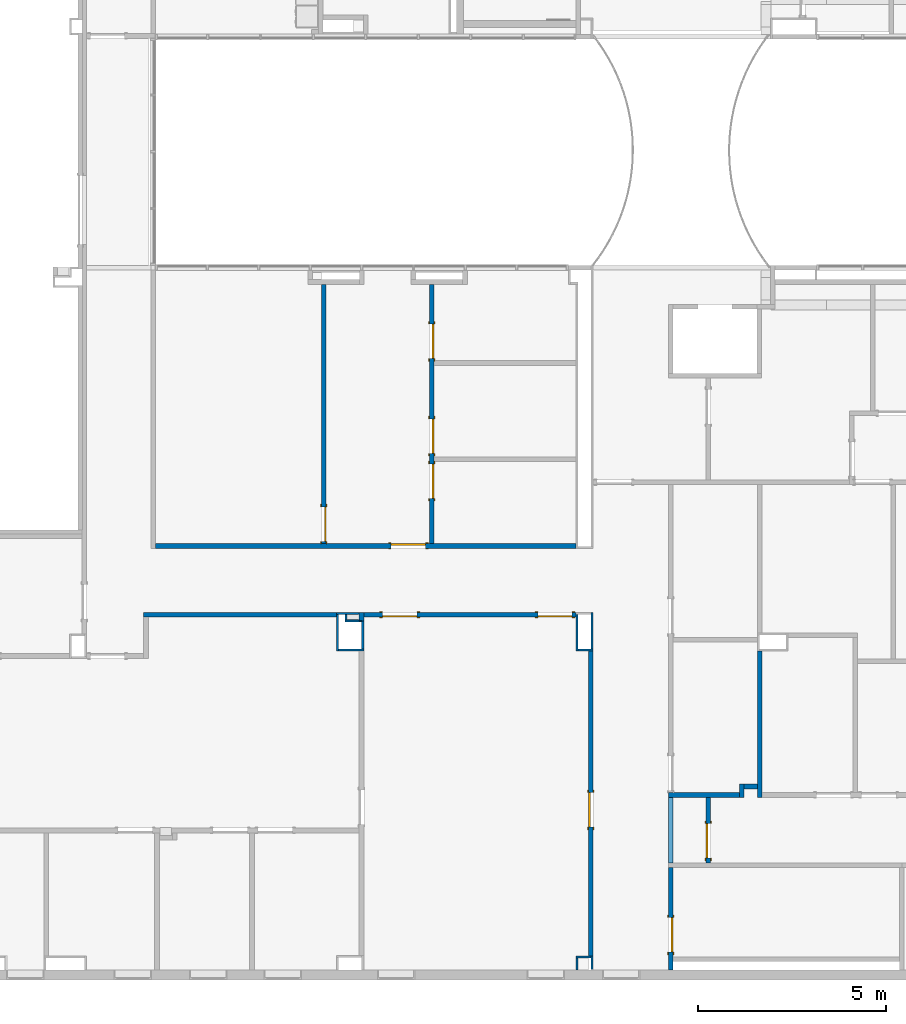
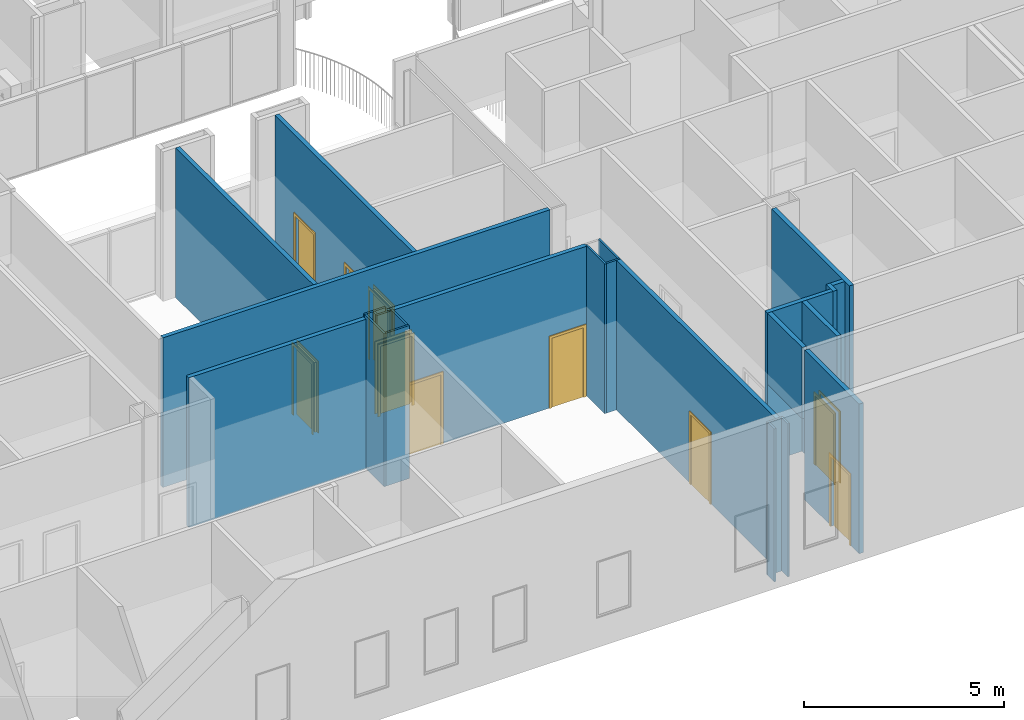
# One storey, part 9 of 45: 26 walls, 10 doors, 10 openings.
"""IFC2X3 building model written with IfcOpenShell, lengths in metres."""

import ifcopenshell
import ifcopenshell.guid

model = None  # the IFC model being written
_history = None  # IfcOwnerHistory: only IFC2X3 demands one
_inside = {}  # id of a spatial element -> (the spatial element, [elements in it])
_under = {}  # id of a project, library or spatial element -> (it, [spatial elements below it])
_declared = {}  # id of a project -> (the project, [libraries it declares])
_typed = {}  # id of a type object -> (the type object, [elements of that type])
_made_of = {}  # id of a material, layer set ... -> (it, [elements and type objects made of it])


def new_model(schema):
    """Start an empty IFC model of exactly this schema.

    Asked for "IFC4X3", IfcOpenShell would pick the latest addendum, in which some entities
    have other attributes; the version numbers below select the first issue.
    IFC2X3 requires an IfcOwnerHistory on every rooted entity: one is made here for all.
    """
    global model, _history
    if schema == "IFC4X3":
        model = ifcopenshell.file(schema_version=(4, 3, 0, 0))
    else:
        model = ifcopenshell.file(schema=schema)
    _inside.clear()
    _under.clear()
    _declared.clear()
    _typed.clear()
    _made_of.clear()
    _history = None
    if model.schema == "IFC2X3":
        org = make("IfcOrganization", Name="unknown")
        user = make(
            "IfcPersonAndOrganization",
            ThePerson=make("IfcPerson", FamilyName="unknown"),
            TheOrganization=org,
        )
        app = make(
            "IfcApplication",
            ApplicationDeveloper=org,
            Version="unknown",
            ApplicationFullName="unknown",
            ApplicationIdentifier="unknown",
        )
        _history = make(
            "IfcOwnerHistory",
            OwningUser=user,
            OwningApplication=app,
            ChangeAction="ADDED",
            CreationDate=0,
        )
    return model


def make(cls, **values):
    """One entity of the class cls with the attributes given. An attribute that is None is left unset."""
    return model.create_entity(
        cls, **{name: value for name, value in values.items() if value is not None}
    )


def entity(cls, *values):
    """Any entity or typed value of the class cls, its attributes in the order of the schema. None: left unset."""
    e = model.create_entity(cls)
    for i, value in enumerate(values):
        if value is not None:
            e[i] = value
    return e


def rooted(cls, **values):
    """An entity with a GlobalId (a new one), such as an element, a storey or a relation."""
    return make(cls, GlobalId=ifcopenshell.guid.new(), OwnerHistory=_history, **values)


def si_unit(unit_type, name, prefix=None):
    """IfcSIUnit, for example si_unit("LENGTHUNIT", "METRE", prefix="MILLI")."""
    return make("IfcSIUnit", UnitType=unit_type, Prefix=prefix, Name=name)


def converted_unit(unit_type, name, factor, base, dimensions=None, offset=None):
    """IfcConversionBasedUnit, such as the inch: factor (a typed value) times the base unit."""
    return make(
        "IfcConversionBasedUnit"
        if offset is None
        else "IfcConversionBasedUnitWithOffset",
        ConversionOffset=offset,
        Dimensions=None
        if dimensions is None
        else entity("IfcDimensionalExponents", *dimensions),
        UnitType=unit_type,
        Name=name,
        ConversionFactor=make(
            "IfcMeasureWithUnit", ValueComponent=factor, UnitComponent=base
        ),
    )


def assignment(units):
    """IfcUnitAssignment: the units of a project."""
    return None if units is None else make("IfcUnitAssignment", Units=units)


def point(xyz):
    """IfcCartesianPoint."""
    return None if xyz is None else make("IfcCartesianPoint", Coordinates=xyz)


def direction(xyz):
    """IfcDirection."""
    return None if xyz is None else make("IfcDirection", DirectionRatios=xyz)


def frame(location, z_axis=None, x_axis=None):
    """IfcAxis2Placement3D, a coordinate frame: its origin and axes. An axis left out is left unset."""
    return make(
        "IfcAxis2Placement3D",
        Location=point(location),
        Axis=direction(z_axis),
        RefDirection=direction(x_axis),
    )


def frame_2d(location, x_axis=None):
    """IfcAxis2Placement2D, a coordinate frame in the plane: its origin and x axis."""
    return make(
        "IfcAxis2Placement2D", Location=point(location), RefDirection=direction(x_axis)
    )


def origin():
    """The frame at (0, 0, 0) with its axes left unset."""
    return frame((0.0, 0.0, 0.0))


def origin_2d_with_axis():
    """The frame at (0, 0) in the plane with the x axis (1, 0) written out."""
    return frame_2d((0.0, 0.0), x_axis=(1.0, 0.0))


def place(relative_to, where):
    """IfcLocalPlacement: puts the frame where relative to a parent placement (None: the world)."""
    return make(
        "IfcLocalPlacement", PlacementRelTo=relative_to, RelativePlacement=where
    )


def context(
    kind, dimensions, precision=None, world=None, true_north=None, identifier=None
):
    """IfcGeometricRepresentationContext, for example the 3D "Model" context."""
    return make(
        "IfcGeometricRepresentationContext",
        ContextIdentifier=identifier,
        ContextType=kind,
        CoordinateSpaceDimension=dimensions,
        Precision=precision,
        WorldCoordinateSystem=world,
        TrueNorth=true_north,
    )


def project(units=None, contexts=None):
    """IfcProject with its units and contexts."""
    return rooted(
        "IfcProject",
        Name="project",
        RepresentationContexts=contexts,
        UnitsInContext=assignment(units),
    )


def spatial(cls, under=None, at=None, **own):
    """A site, building, storey or space (cls), placed at a placement, below another one or the project."""
    s = rooted(cls, ObjectPlacement=at, **own)
    if under is not None:
        _under.setdefault(under.id(), (under, []))[1].append(s)
    return s


def polyline(points):
    """IfcPolyline through the points."""
    return make("IfcPolyline", Points=[point(p) for p in points])


def profile(cls, at=None, kind="AREA", **sizes):
    """A parametric profile (cls). Its sizes go by their IFC names, for example OverallWidth=200.0."""
    return make(cls, ProfileType=kind, Position=at, **sizes)


def rectangle(**sizes):
    """IfcRectangleProfileDef."""
    return profile("IfcRectangleProfileDef", **sizes)


def outline(outer, holes=None, kind="AREA"):
    """IfcArbitraryClosedProfileDef: a profile drawn as a closed curve; with holes, ...WithVoids."""
    if holes is None:
        return make("IfcArbitraryClosedProfileDef", ProfileType=kind, OuterCurve=outer)
    return make(
        "IfcArbitraryProfileDefWithVoids",
        ProfileType=kind,
        OuterCurve=outer,
        InnerCurves=holes,
    )


def extrude(swept, where, along, depth):
    """IfcExtrudedAreaSolid: the profile swept, set in the frame where, extruded along a direction by depth."""
    return make(
        "IfcExtrudedAreaSolid",
        SweptArea=swept,
        Position=where,
        ExtrudedDirection=direction(along),
        Depth=depth,
    )


def shape(context_of_items, identifier, shape_type, items):
    """IfcShapeRepresentation: the items that make up one representation, for example the "Body"."""
    return make(
        "IfcShapeRepresentation",
        ContextOfItems=context_of_items,
        RepresentationIdentifier=identifier,
        RepresentationType=shape_type,
        Items=items,
    )


def source(mapping_origin, context_of_items, identifier, shape_type, items):
    """IfcRepresentationMap: a shape defined once, which mapped items show again and again."""
    return make(
        "IfcRepresentationMap",
        MappingOrigin=mapping_origin,
        MappedRepresentation=shape(context_of_items, identifier, shape_type, items),
    )


def transform(
    local_origin,
    x_axis=None,
    y_axis=None,
    z_axis=None,
    scale=None,
    scale2=None,
    scale3=None,
    uniform=True,
):
    """IfcCartesianTransformationOperator3D, or its non-uniform kind. x_axis, y_axis, z_axis: its Axis1, 2, 3."""
    if uniform:
        return make(
            "IfcCartesianTransformationOperator3D",
            Axis1=direction(x_axis),
            Axis2=direction(y_axis),
            LocalOrigin=point(local_origin),
            Scale=scale,
            Axis3=direction(z_axis),
        )
    return make(
        "IfcCartesianTransformationOperator3DnonUniform",
        Axis1=direction(x_axis),
        Axis2=direction(y_axis),
        LocalOrigin=point(local_origin),
        Scale=scale,
        Axis3=direction(z_axis),
        Scale2=scale2,
        Scale3=scale3,
    )


def mapped(mapping_source, mapping_target):
    """IfcMappedItem: shows the shape of a source again, moved by a transform."""
    return make(
        "IfcMappedItem", MappingSource=mapping_source, MappingTarget=mapping_target
    )


def material(Name=None, Category=None):
    """IfcMaterial."""
    return make("IfcMaterial", Name=Name, Category=Category)


def layer(
    of_material, thickness, ventilated=None, Name=None, Category=None, Priority=None
):
    """IfcMaterialLayer: one layer of a wall or slab, of a material (None: an air gap)."""
    return make(
        "IfcMaterialLayer",
        Material=of_material,
        LayerThickness=thickness,
        IsVentilated=ventilated,
        Name=Name,
        Category=Category,
        Priority=Priority,
    )


def layer_set(layers, Name=None):
    """IfcMaterialLayerSet."""
    return make("IfcMaterialLayerSet", MaterialLayers=layers, LayerSetName=Name)


def layer_usage(for_layer_set, set_direction, sense, offset, extent=None):
    """IfcMaterialLayerSetUsage: how a layer set lies in its element."""
    return make(
        "IfcMaterialLayerSetUsage",
        ForLayerSet=for_layer_set,
        LayerSetDirection=set_direction,
        DirectionSense=sense,
        OffsetFromReferenceLine=offset,
        ReferenceExtent=extent,
    )


def made_of(thing, what):
    """Note that an element or type object is made of a material, layer set ...; save() writes the relation."""
    if what is not None:
        _made_of.setdefault(what.id(), (what, []))[1].append(thing)
    return thing


def type_object(cls, material=None, **own):
    """A type object (cls), such as IfcWallType, which elements share."""
    return made_of(rooted(cls, **own), material)


def type_shapes(of_type, sources):
    """Give a type object the sources (RepresentationMaps) that its elements show as mapped items."""
    of_type.RepresentationMaps = sources


def element(
    cls,
    number,
    at=None,
    inside=None,
    cuts=None,
    type_object=None,
    material=None,
    context=None,
    identifier="Body",
    shape_type=None,
    held_by="IfcProductDefinitionShape",
    body=None,
    shapes=None,
    **own,
):
    """One element of the class cls, such as IfcWall. Its Tag is "e" and its number.

    at: its placement. inside: the storey or other place that contains it. cuts: it is an
    opening in that element (IfcRelVoidsElement). A single representation is given by context,
    identifier, shape_type and body (its items); several are given by shapes. held_by: the class
    of the entity that holds the representations. save() writes the other relations.
    """
    e = rooted(cls, Tag="e%d" % number, ObjectPlacement=at, **own)
    if body is not None:
        shapes = [shape(context, identifier, shape_type, body)]
    if shapes is not None:
        e.Representation = make(held_by, Representations=shapes)
    if inside is not None:
        _inside.setdefault(inside.id(), (inside, []))[1].append(e)
    if cuts is not None:
        rooted(
            "IfcRelVoidsElement", RelatingBuildingElement=cuts, RelatedOpeningElement=e
        )
    if type_object is not None:
        _typed.setdefault(type_object.id(), (type_object, []))[1].append(e)
    return made_of(e, material)


def fill(opening, filler):
    """IfcRelFillsElement: the door or window that sits in an opening."""
    return rooted(
        "IfcRelFillsElement",
        RelatingOpeningElement=opening,
        RelatedBuildingElement=filler,
    )


def aggregate(whole, parts):
    """IfcRelAggregates: a whole, such as a stair, and the parts it consists of."""
    return rooted("IfcRelAggregates", RelatingObject=whole, RelatedObjects=parts)


def save(model, path):
    """Write the relations noted so far, then the file.

    IfcRelAggregates (storeys below a building ...), IfcRelContainedInSpatialStructure (elements
    in a storey), IfcRelDefinesByType, IfcRelAssociatesMaterial and IfcRelDeclares: one each for
    every whole, place, type object, material and project.
    """
    for whole, parts in _under.values():
        aggregate(whole, parts)
    for where, things in _inside.values():
        rooted(
            "IfcRelContainedInSpatialStructure",
            RelatedElements=things,
            RelatingStructure=where,
        )
    for kind, things in _typed.values():
        rooted("IfcRelDefinesByType", RelatedObjects=things, RelatingType=kind)
    for what, things in _made_of.values():
        rooted("IfcRelAssociatesMaterial", RelatedObjects=things, RelatingMaterial=what)
    for by, libraries in _declared.values():
        rooted("IfcRelDeclares", RelatingContext=by, RelatedDefinitions=libraries)
    model.write(path)


model = new_model("IFC2X3")

# Units and contexts
model_context = context("Model", 3, precision=1e-09, world=origin())
plan_context = context("Plan", 3, precision=1e-09, world=origin())
ifc_project = project(units=[si_unit("LENGTHUNIT", "METRE"), si_unit("AREAUNIT", "SQUARE_METRE"), si_unit("VOLUMEUNIT", "CUBIC_METRE"), converted_unit("PLANEANGLEUNIT", "DEGREE", entity("IfcRatioMeasure", 0.01745329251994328), si_unit("PLANEANGLEUNIT", "RADIAN"), dimensions=[0, 0, 0, 0, 0, 0, 0]), si_unit("TIMEUNIT", "SECOND")], contexts=[model_context, plan_context])

# Site, building, storey
site_placement = place(None, origin())
site = spatial("IfcSite", under=ifc_project, at=site_placement, Name="Default", CompositionType="ELEMENT")
building_placement = place(site_placement, origin())
building = spatial("IfcBuilding", under=site, at=building_placement, CompositionType="ELEMENT")
storey_placement = place(building_placement, frame((0.0, 0.0, 4.570000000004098)))
storey = spatial("IfcBuildingStorey", under=building, at=storey_placement, Name="Second Floor", CompositionType="ELEMENT", Elevation=4.570000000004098)

# Wall, opening, door
ifc_material_1 = material(Name="Plasterboard")
ifc_layer_1 = layer(ifc_material_1, 0.016)
ifc_material_2 = material(Name="Metal - Stud Layer")
ifc_layer_2 = layer(ifc_material_2, 0.092)
ifc_layer_3 = layer(ifc_material_1, 0.016)
ifc_layer_set_1 = layer_set([ifc_layer_1, ifc_layer_2, ifc_layer_3], Name="Basic Wall:Interior - Partition (92mm Stud)")
ifc_layer_usage_1 = layer_usage(ifc_layer_set_1, "AXIS2", "NEGATIVE", 0.062)
wall_1_placement = place(storey_placement, frame((-20.29000000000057, 21.2164387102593, 0.0), z_axis=(0.0, 0.0, 1.0), x_axis=(-1.0, 0.0, 0.0)))
wall_1 = element("IfcWallStandardCase", 1, at=wall_1_placement, inside=storey, material=ifc_layer_usage_1, Name="Basic Wall:Interior - Partition (92mm Stud)", ObjectType="Basic Wall:Interior - Partition (92mm Stud)", context=model_context, shape_type="SweptSolid", body=[
    extrude(rectangle(XDim=11.19600000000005, YDim=0.1239999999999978, at=frame_2d((5.598000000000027, 0.0), x_axis=(-1.0, 0.0))), origin(), (0.0, 0.0, 1.0), 4.577999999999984),
])
opening_1_placement = place(wall_1_placement, frame((4.920000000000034, 0.06199999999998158, 0.0)))
opening_1 = element("IfcOpeningElement", 2, at=opening_1_placement, cuts=wall_1, Name="M_Single-Flush:0915 x 2134mm:0915 x 2134mm:1", ObjectType="Opening", context=model_context, shape_type="SweptSolid", body=[
    extrude(rectangle(XDim=0.9149999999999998, YDim=2.134, at=frame_2d((1.067, 0.4575), x_axis=(0.0, 1.0))), frame((0.0, 0.0, 0.0), z_axis=(0.0, -1.0, 0.0), x_axis=(0.0, 0.0, 1.0)), (0.0, 0.0, 1.0), 0.124),
])
door_style_1 = type_object("IfcDoorStyle", Name="0915 x 2134mm", ConstructionType="NOTDEFINED", OperationType="SINGLE_SWING_RIGHT", ParameterTakesPrecedence=False, Sizeable=False)
shared_shape_1 = source(origin(), model_context, "Body", "SweptSolid", [
    extrude(outline(polyline([(-0.5335, -1.123999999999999), (0.5334999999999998, -1.123999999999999), (0.5334999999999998, 1.086), (0.4574999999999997, 1.086), (0.4574999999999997, -1.048000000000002), (-0.4574999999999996, -1.048000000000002), (-0.4574999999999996, 1.086), (-0.5335, 1.086), (-0.5335, -1.123999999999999)])), frame((0.4575000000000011, 0.1239999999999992, 1.086), z_axis=(0.0, 1.0, 0.0), x_axis=(1.0, 0.0, 0.0)), (0.0, 0.0, 1.0), 0.02499999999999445),
    extrude(outline(polyline([(-1.123999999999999, -0.5334999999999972), (1.085999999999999, -0.5334999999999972), (1.085999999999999, -0.4575000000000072), (-1.048, -0.4575000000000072), (-1.048, 0.4575000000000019), (1.085999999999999, 0.4575000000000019), (1.085999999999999, 0.5335000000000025), (-1.123999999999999, 0.5335000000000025), (-1.123999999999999, -0.5334999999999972)])), frame((0.4575000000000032, -0.02500000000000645, 1.085999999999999), z_axis=(0.0, 1.0, 0.0), x_axis=(0.0, 0.0, -1.0)), (0.0, 0.0, 1.0), 0.02500000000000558),
    extrude(rectangle(XDim=0.051, YDim=0.9149999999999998, at=origin_2d_with_axis()), frame((0.4575000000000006, 0.09849999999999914, 0.0), z_axis=(0.0, 0.0, 1.0), x_axis=(0.0, 1.0, 0.0)), (0.0, 0.0, 1.0), 2.133999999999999),
])
type_shapes(door_style_1, [shared_shape_1])
door_1_placement = place(opening_1_placement, frame((0.0, 0.0, 0.0), z_axis=(0.0, 0.0, 1.0), x_axis=(-1.0, 0.0, 0.0)))
door_1 = element("IfcDoor", 3, at=door_1_placement, inside=storey, type_object=door_style_1, Name="M_Single-Flush:0915 x 2134mm:0915 x 2134mm", ObjectType="0915 x 2134mm", OverallHeight=2.134, OverallWidth=0.9149999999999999, context=model_context, shape_type="MappedRepresentation", body=[
    mapped(shared_shape_1, transform((0.0, 0.0, 0.0), scale=1.0)),
])
fill(opening_1, door_1)

wall_2_placement = place(storey_placement, frame((-19.89200000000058, 18.41443871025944, 0.0), z_axis=(0.0, 0.0, 1.0), x_axis=(0.0, -1.0, 0.0)))
wall_2 = element("IfcWallStandardCase", 4, at=wall_2_placement, inside=storey, material=ifc_layer_usage_1, Name="Basic Wall:Interior - Partition (92mm Stud)", ObjectType="Basic Wall:Interior - Partition (92mm Stud)", context=model_context, shape_type="SweptSolid", body=[
    extrude(rectangle(XDim=8.109999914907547, YDim=0.1239999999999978, at=frame_2d((4.054999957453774, 0.0), x_axis=(-1.0, 0.0))), origin(), (0.0, 0.0, 1.0), 4.577999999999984),
])
opening_2_placement = place(wall_2_placement, frame((4.681000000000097, 0.06199999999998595, 0.0)))
opening_2 = element("IfcOpeningElement", 5, at=opening_2_placement, cuts=wall_2, Name="M_Single-Flush:0915 x 2134mm:0915 x 2134mm:1", ObjectType="Opening", context=model_context, shape_type="SweptSolid", body=[
    extrude(rectangle(XDim=0.9149999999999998, YDim=2.134, at=frame_2d((1.067, 0.4575), x_axis=(0.0, 1.0))), frame((0.0, 0.0, 0.0), z_axis=(0.0, -1.0, 0.0), x_axis=(0.0, 0.0, 1.0)), (0.0, 0.0, 1.0), 0.124),
])
door_2_placement = place(opening_2_placement, frame((0.0, 0.0, 0.0), z_axis=(0.0, 0.0, 1.0), x_axis=(-1.0, 0.0, 0.0)))
door_2 = element("IfcDoor", 6, at=door_2_placement, inside=storey, type_object=door_style_1, Name="M_Single-Flush:0915 x 2134mm:0915 x 2134mm", ObjectType="0915 x 2134mm", OverallHeight=2.134, OverallWidth=0.9149999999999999, context=model_context, shape_type="MappedRepresentation", body=[
    mapped(shared_shape_1, transform((0.0, 0.0, 0.0), scale=1.0)),
])
fill(opening_2, door_2)

# Wall, openings, doors
wall_3_placement = place(storey_placement, frame((-24.1330000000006, 21.27843871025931, 0.0), z_axis=(0.0, 0.0, 1.0), x_axis=(0.0, 1.0, 0.0)))
wall_3 = element("IfcWallStandardCase", 7, at=wall_3_placement, inside=storey, material=ifc_layer_usage_1, Name="Basic Wall:Interior - Partition (92mm Stud)", ObjectType="Basic Wall:Interior - Partition (92mm Stud)", context=model_context, shape_type="SweptSolid", body=[
    extrude(rectangle(XDim=6.906000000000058, YDim=0.1239999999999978, at=frame_2d((3.453000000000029, 0.0), x_axis=(-1.0, 0.0))), origin(), (0.0, 0.0, 1.0), 4.577999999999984),
])
opening_3_placement = place(wall_3_placement, frame((3.320999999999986, 0.0619999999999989, 0.0)))
opening_3 = element("IfcOpeningElement", 8, at=opening_3_placement, cuts=wall_3, Name="M_Single-Flush:0915 x 2134mm:0915 x 2134mm:1", ObjectType="Opening", context=model_context, shape_type="SweptSolid", body=[
    extrude(rectangle(XDim=0.9149999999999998, YDim=2.134, at=frame_2d((1.067, 0.4575), x_axis=(0.0, 1.0))), frame((0.0, 0.0, 0.0), z_axis=(0.0, -1.0, 0.0), x_axis=(0.0, 0.0, 1.0)), (0.0, 0.0, 1.0), 0.124),
])
opening_4_placement = place(wall_3_placement, frame((2.121999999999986, 0.0619999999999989, 0.0)))
opening_4 = element("IfcOpeningElement", 9, at=opening_4_placement, cuts=wall_3, Name="M_Single-Flush:0915 x 2134mm:0915 x 2134mm:1", ObjectType="Opening", context=model_context, shape_type="SweptSolid", body=[
    extrude(rectangle(XDim=0.9149999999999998, YDim=2.134, at=frame_2d((1.067, 0.4575000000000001), x_axis=(0.0, -1.0))), frame((0.0, 0.0, 0.0), z_axis=(0.0, -1.0, 0.0), x_axis=(0.0, 0.0, 1.0)), (0.0, 0.0, 1.0), 0.124),
])
opening_5_placement = place(wall_3_placement, frame((5.844999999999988, 0.06199999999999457, 0.0)))
opening_5 = element("IfcOpeningElement", 10, at=opening_5_placement, cuts=wall_3, Name="M_Single-Flush:0915 x 2134mm:0915 x 2134mm:1", ObjectType="Opening", context=model_context, shape_type="SweptSolid", body=[
    extrude(rectangle(XDim=0.9149999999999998, YDim=2.134, at=frame_2d((1.067, 0.4575), x_axis=(0.0, 1.0))), frame((0.0, 0.0, 0.0), z_axis=(0.0, -1.0, 0.0), x_axis=(0.0, 0.0, 1.0)), (0.0, 0.0, 1.0), 0.124),
])
door_3_placement = place(opening_3_placement, frame((0.0, 0.0, 0.0), z_axis=(0.0, 0.0, 1.0), x_axis=(-1.0, 0.0, 0.0)))
door_3 = element("IfcDoor", 11, at=door_3_placement, inside=storey, type_object=door_style_1, Name="M_Single-Flush:0915 x 2134mm:0915 x 2134mm", ObjectType="0915 x 2134mm", OverallHeight=2.134, OverallWidth=0.9149999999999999, context=model_context, shape_type="MappedRepresentation", body=[
    mapped(shared_shape_1, transform((0.0, 0.0, 0.0), scale=1.0)),
])
fill(opening_3, door_3)
door_4_placement = place(opening_5_placement, frame((0.0, 0.0, 0.0), z_axis=(0.0, 0.0, 1.0), x_axis=(-1.0, 0.0, 0.0)))
door_4 = element("IfcDoor", 12, at=door_4_placement, inside=storey, type_object=door_style_1, Name="M_Single-Flush:0915 x 2134mm:0915 x 2134mm", ObjectType="0915 x 2134mm", OverallHeight=2.134, OverallWidth=0.9149999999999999, context=model_context, shape_type="MappedRepresentation", body=[
    mapped(shared_shape_1, transform((0.0, 0.0, 0.0), scale=1.0)),
])
fill(opening_5, door_4)
door_style_2 = type_object("IfcDoorStyle", Name="0915 x 2134mm", ConstructionType="NOTDEFINED", OperationType="SINGLE_SWING_LEFT", ParameterTakesPrecedence=False, Sizeable=False)
shared_shape_2 = source(origin(), model_context, "Body", "SweptSolid", [
    extrude(outline(polyline([(-0.5335, -1.123999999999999), (0.5334999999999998, -1.123999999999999), (0.5334999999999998, 1.086), (0.4574999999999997, 1.086), (0.4574999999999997, -1.048000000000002), (-0.4574999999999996, -1.048000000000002), (-0.4574999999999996, 1.086), (-0.5335, 1.086), (-0.5335, -1.123999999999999)])), frame((0.4575000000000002, 0.1489999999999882, 1.086), z_axis=(0.0, -1.0, 0.0), x_axis=(-1.0, 0.0, 0.0)), (0.0, 0.0, 1.0), 0.02499999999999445),
    extrude(outline(polyline([(-1.123999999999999, -0.5334999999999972), (1.085999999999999, -0.5334999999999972), (1.085999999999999, -0.4575000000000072), (-1.048, -0.4575000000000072), (-1.048, 0.4575000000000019), (1.085999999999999, 0.4575000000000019), (1.085999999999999, 0.5335000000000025), (-1.123999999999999, 0.5335000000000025), (-1.123999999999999, -0.5334999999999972)])), frame((0.4574999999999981, 0.0, 1.085999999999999), z_axis=(0.0, -1.0, 0.0), x_axis=(0.0, 0.0, -1.0)), (0.0, 0.0, 1.0), 0.02500000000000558),
    extrude(rectangle(XDim=0.9149999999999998, YDim=0.051, at=origin_2d_with_axis()), frame((0.4575000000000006, 0.09849999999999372, 0.0)), (0.0, 0.0, 1.0), 2.133999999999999),
])
type_shapes(door_style_2, [shared_shape_2])
door_5_placement = place(opening_4_placement, frame((0.0, 0.0, 0.0), z_axis=(0.0, 0.0, 1.0), x_axis=(-1.0, 0.0, 0.0)))
door_5 = element("IfcDoor", 13, at=door_5_placement, inside=storey, type_object=door_style_2, Name="M_Single-Flush:0915 x 2134mm:0915 x 2134mm", ObjectType="0915 x 2134mm", OverallHeight=2.134, OverallWidth=0.9149999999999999, context=model_context, shape_type="MappedRepresentation", body=[
    mapped(shared_shape_2, transform((0.0, 0.0, 0.0), scale=1.0)),
])
fill(opening_4, door_5)

# Wall
wall_4_placement = place(storey_placement, frame((-15.39800000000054, 14.52443871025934, 0.0), z_axis=(0.0, 0.0, 1.0), x_axis=(0.0, 1.0, 0.0)))
element("IfcWallStandardCase", 14, at=wall_4_placement, inside=storey, material=ifc_layer_usage_1, Name="Basic Wall:Interior - Partition (92mm Stud)", ObjectType="Basic Wall:Interior - Partition (92mm Stud)", context=model_context, shape_type="SweptSolid", body=[
    extrude(rectangle(XDim=3.890000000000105, YDim=0.1240000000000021, at=frame_2d((1.945000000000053, 0.0), x_axis=(-1.0, 0.0))), origin(), (0.0, 0.0, 1.0), 4.577999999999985),
])

# Wall, opening, door
ifc_material_3 = material(Name="Type-X Plasterboard")
ifc_layer_4 = layer(ifc_material_3, 0.016)
ifc_layer_5 = layer(ifc_material_2, 0.092)
ifc_layer_6 = layer(ifc_material_3, 0.016)
ifc_layer_set_2 = layer_set([ifc_layer_4, ifc_layer_5, ifc_layer_6], Name="Basic Wall:Interior - Rated 1-HR (92mm Stud)")
ifc_layer_usage_2 = layer_usage(ifc_layer_set_2, "AXIS2", "NEGATIVE", 0.06200000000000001)
wall_5_placement = place(storey_placement, frame((-17.76800000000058, 9.926999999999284, 0.0), z_axis=(0.0, 0.0, 1.0), x_axis=(0.0, 1.0, 0.0)))
wall_5 = element("IfcWallStandardCase", 15, at=wall_5_placement, inside=storey, material=ifc_layer_usage_2, Name="Basic Wall:Interior - Rated 1-HR (92mm Stud)", ObjectType="Basic Wall:Interior - Rated 1-HR (92mm Stud)", context=model_context, shape_type="SweptSolid", body=[
    extrude(rectangle(XDim=2.728999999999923, YDim=0.1240000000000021, at=frame_2d((1.364499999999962, 0.0), x_axis=(-1.0, 0.0))), origin(), (0.0, 0.0, 1.0), 4.577999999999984),
])
opening_6_placement = place(wall_5_placement, frame((1.392438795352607, 0.06200000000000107, 0.0)))
opening_6 = element("IfcOpeningElement", 16, at=opening_6_placement, cuts=wall_5, Name="M_Single-Flush:0915 x 2134mm Rated:0915 x 2134mm Rated:1", ObjectType="Opening", context=model_context, shape_type="SweptSolid", body=[
    extrude(rectangle(XDim=0.9149999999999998, YDim=2.134, at=frame_2d((1.067, 0.4575), x_axis=(0.0, 1.0))), frame((0.0, 0.0, 0.0), z_axis=(0.0, -1.0, 0.0), x_axis=(0.0, 0.0, 1.0)), (0.0, 0.0, 1.0), 0.124),
])
door_style_3 = type_object("IfcDoorStyle", Name="0915 x 2134mm Rated", ConstructionType="NOTDEFINED", OperationType="SINGLE_SWING_RIGHT", ParameterTakesPrecedence=False, Sizeable=False)
shared_shape_3 = source(origin(), model_context, "Body", "SweptSolid", [
    extrude(outline(polyline([(-0.5335, -1.123999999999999), (0.5334999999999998, -1.123999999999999), (0.5334999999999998, 1.086), (0.4574999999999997, 1.086), (0.4574999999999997, -1.048000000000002), (-0.4574999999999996, -1.048000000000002), (-0.4574999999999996, 1.086), (-0.5335, 1.086), (-0.5335, -1.123999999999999)])), frame((0.4575000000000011, 0.1240000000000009, 1.086), z_axis=(0.0, 1.0, 0.0), x_axis=(1.0, 0.0, 0.0)), (0.0, 0.0, 1.0), 0.02499999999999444),
    extrude(outline(polyline([(-1.123999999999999, -0.5334999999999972), (1.085999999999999, -0.5334999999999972), (1.085999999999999, -0.4575000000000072), (-1.048, -0.4575000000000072), (-1.048, 0.4575000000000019), (1.085999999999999, 0.4575000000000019), (1.085999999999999, 0.5335000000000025), (-1.123999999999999, 0.5335000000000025), (-1.123999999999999, -0.5334999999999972)])), frame((0.4575000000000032, -0.02500000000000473, 1.085999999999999), z_axis=(0.0, 1.0, 0.0), x_axis=(0.0, 0.0, -1.0)), (0.0, 0.0, 1.0), 0.02500000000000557),
    extrude(rectangle(XDim=0.051, YDim=0.9149999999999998, at=origin_2d_with_axis()), frame((0.4575000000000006, 0.09850000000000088, 0.0), z_axis=(0.0, 0.0, 1.0), x_axis=(0.0, 1.0, 0.0)), (0.0, 0.0, 1.0), 2.133999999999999),
])
type_shapes(door_style_3, [shared_shape_3])
door_6_placement = place(opening_6_placement, frame((0.0, 0.0, 0.0), z_axis=(0.0, 0.0, 1.0), x_axis=(-1.0, 0.0, 0.0)))
door_6 = element("IfcDoor", 17, at=door_6_placement, inside=storey, type_object=door_style_3, Name="M_Single-Flush:0915 x 2134mm Rated:0915 x 2134mm Rated", ObjectType="0915 x 2134mm Rated", OverallHeight=2.134, OverallWidth=0.9149999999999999, context=model_context, shape_type="MappedRepresentation", body=[
    mapped(shared_shape_3, transform((0.0, 0.0, 0.0), scale=1.0)),
])
fill(opening_6, door_6)

# Wall, openings, doors
wall_6_placement = place(storey_placement, frame((-25.94000000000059, 19.38243871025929, 0.0)))
wall_6 = element("IfcWallStandardCase", 18, at=wall_6_placement, inside=storey, material=ifc_layer_usage_1, Name="Basic Wall:Interior - Partition (92mm Stud)", ObjectType="Basic Wall:Interior - Partition (92mm Stud)", context=model_context, shape_type="SweptSolid", body=[
    extrude(rectangle(XDim=5.650000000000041, YDim=0.1240000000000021, at=frame_2d((2.825000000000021, 0.0), x_axis=(-1.0, 0.0))), origin(), (0.0, 0.0, 1.0), 4.577999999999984),
])
opening_7_placement = place(wall_6_placement, frame((5.550000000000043, 0.06199999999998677, 0.0)))
opening_7 = element("IfcOpeningElement", 19, at=opening_7_placement, cuts=wall_6, Name=":1", ObjectType="Opening", context=model_context, shape_type="SweptSolid", body=[
    extrude(rectangle(XDim=0.9149999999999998, YDim=2.134, at=frame_2d((1.067, 0.4574999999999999), x_axis=(0.0, -1.0))), frame((0.0, 0.0, 0.0), z_axis=(0.0, -1.0, 0.0), x_axis=(0.0, 0.0, 1.0)), (0.0, 0.0, 1.0), 0.124),
])
opening_8_placement = place(wall_6_placement, frame((1.414999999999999, 0.06199999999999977, 0.0)))
opening_8 = element("IfcOpeningElement", 20, at=opening_8_placement, cuts=wall_6, Name=":1", ObjectType="Opening", context=model_context, shape_type="SweptSolid", body=[
    extrude(rectangle(XDim=0.9149999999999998, YDim=2.134, at=frame_2d((1.067, 0.4575), x_axis=(0.0, 1.0))), frame((0.0, 0.0, 0.0), z_axis=(0.0, -1.0, 0.0), x_axis=(0.0, 0.0, 1.0)), (0.0, 0.0, 1.0), 0.124),
])
door_7_placement = place(opening_8_placement, frame((0.0, 0.0, 0.0), z_axis=(0.0, 0.0, 1.0), x_axis=(-1.0, 0.0, 0.0)))
door_7 = element("IfcDoor", 21, at=door_7_placement, inside=storey, type_object=door_style_1, Name="M_Single-Flush:0915 x 2134mm:0915 x 2134mm", ObjectType="0915 x 2134mm", OverallHeight=2.134, OverallWidth=0.9149999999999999, context=model_context, shape_type="MappedRepresentation", body=[
    mapped(shared_shape_1, transform((0.0, 0.0, 0.0), scale=1.0)),
])
fill(opening_8, door_7)
door_8_placement = place(opening_7_placement, frame((0.0, 0.0, 0.0), z_axis=(0.0, 0.0, 1.0), x_axis=(-1.0, 0.0, 0.0)))
door_8 = element("IfcDoor", 22, at=door_8_placement, inside=storey, type_object=door_style_2, Name="M_Single-Flush:0915 x 2134mm:0915 x 2134mm", ObjectType="0915 x 2134mm", OverallHeight=2.134, OverallWidth=0.9149999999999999, context=model_context, shape_type="MappedRepresentation", body=[
    mapped(shared_shape_2, transform((0.0, 0.0, 0.0), scale=1.0)),
])
fill(opening_7, door_8)

# Walls
wall_7_placement = place(storey_placement, frame((-15.93400000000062, 14.58643871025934, 0.0), z_axis=(0.0, 0.0, 1.0), x_axis=(-1.0, 0.0, 0.0)))
element("IfcWallStandardCase", 23, at=wall_7_placement, inside=storey, material=ifc_layer_usage_1, Name="Basic Wall:Interior - Partition (92mm Stud)", ObjectType="Basic Wall:Interior - Partition (92mm Stud)", context=model_context, shape_type="SweptSolid", body=[
    extrude(rectangle(XDim=1.895999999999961, YDim=0.1240000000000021, at=frame_2d((0.9479999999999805, 0.0), x_axis=(-1.0, 0.0))), origin(), (0.0, 0.0, 1.0), 4.577999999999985),
])
wall_8_placement = place(storey_placement, frame((-31.80000000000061, 19.38243871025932, 0.0)))
element("IfcWallStandardCase", 24, at=wall_8_placement, inside=storey, material=ifc_layer_usage_1, Name="Basic Wall:Interior - Partition (92mm Stud)", ObjectType="Basic Wall:Interior - Partition (92mm Stud)", context=model_context, shape_type="SweptSolid", body=[
    extrude(rectangle(XDim=5.130000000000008, YDim=0.1240000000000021, at=frame_2d((2.565000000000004, 0.0), x_axis=(-1.0, 0.0))), origin(), (0.0, 0.0, 1.0), 4.577999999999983),
])
ifc_layer_7 = layer(ifc_material_2, 0.038)
ifc_layer_8 = layer(ifc_material_1, 0.016)
ifc_layer_set_3 = layer_set([ifc_layer_7, ifc_layer_8], Name="Basic Wall:Interior - Furring (38 mm Stud)")
ifc_layer_usage_3 = layer_usage(ifc_layer_set_3, "AXIS2", "NEGATIVE", 0.027)
wall_9_placement = place(storey_placement, frame((-26.06400000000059, 19.41743871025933, 0.0), z_axis=(0.0, 0.0, 1.0), x_axis=(-1.0, 0.0, 0.0)))
element("IfcWallStandardCase", 25, at=wall_9_placement, inside=storey, material=ifc_layer_usage_3, Name="Basic Wall:Interior - Furring (38 mm Stud)", ObjectType="Basic Wall:Interior - Furring (38 mm Stud)", context=model_context, shape_type="SweptSolid", body=[
    extrude(rectangle(XDim=0.6060000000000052, YDim=0.05400000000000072, at=frame_2d((0.3030000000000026, 0.0), x_axis=(-1.0, 0.0))), origin(), (0.0, 0.0, 1.0), 4.679999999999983),
])
wall_10_placement = place(storey_placement, frame((-26.6430000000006, 19.3904387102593, 0.0), z_axis=(0.0, 0.0, 1.0), x_axis=(0.0, -1.0, 0.0)))
element("IfcWallStandardCase", 26, at=wall_10_placement, inside=storey, material=ifc_layer_usage_3, Name="Basic Wall:Interior - Furring (38 mm Stud)", ObjectType="Basic Wall:Interior - Furring (38 mm Stud)", context=model_context, shape_type="SweptSolid", body=[
    extrude(rectangle(XDim=0.9759999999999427, YDim=0.05399999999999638, at=frame_2d((0.4879999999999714, 0.0), x_axis=(-1.0, 0.0))), origin(), (0.0, 0.0, 1.0), 4.679999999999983),
])

# Wall, opening, door
wall_11_placement = place(storey_placement, frame((-16.76800000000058, 12.7799999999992, 0.0), z_axis=(0.0, 0.0, 1.0), x_axis=(0.0, 1.0, 0.0)))
wall_11 = element("IfcWallStandardCase", 27, at=wall_11_placement, inside=storey, material=ifc_layer_usage_1, Name="Basic Wall:Interior - Partition (92mm Stud)", ObjectType="Basic Wall:Interior - Partition (92mm Stud)", context=model_context, shape_type="SweptSolid", body=[
    extrude(rectangle(XDim=1.744438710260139, YDim=0.1240000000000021, at=frame_2d((0.8722193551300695, 0.0), x_axis=(-1.0, 0.0))), origin(), (0.0, 0.0, 1.0), 4.577999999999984),
])
opening_9_placement = place(wall_11_placement, frame((0.1284387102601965, -0.06199999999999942, 0.0)))
opening_9 = element("IfcOpeningElement", 28, at=opening_9_placement, cuts=wall_11, Name="M_Single-Flush:0915 x 2134mm:0915 x 2134mm:1", ObjectType="Opening", context=model_context, shape_type="SweptSolid", body=[
    extrude(rectangle(XDim=0.9149999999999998, YDim=2.134, at=frame_2d((1.067, 0.4575000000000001), x_axis=(0.0, -1.0))), frame((0.0, 0.0, 0.0), z_axis=(0.0, 1.0, 0.0), x_axis=(0.0, 0.0, 1.0)), (0.0, 0.0, 1.0), 0.124),
])
door_9_placement = place(opening_9_placement, origin())
door_9 = element("IfcDoor", 29, at=door_9_placement, inside=storey, type_object=door_style_2, Name="M_Single-Flush:0915 x 2134mm:0915 x 2134mm", ObjectType="0915 x 2134mm", OverallHeight=2.134, OverallWidth=0.9149999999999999, context=model_context, shape_type="MappedRepresentation", body=[
    mapped(shared_shape_2, transform((0.0, 0.0, 0.0), scale=1.0)),
])
fill(opening_9, door_9)

# Walls
wall_12_placement = place(storey_placement, frame((-25.9670000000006, 18.46843871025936, 0.0), z_axis=(0.0, 0.0, 1.0), x_axis=(0.0, 1.0, 0.0)))
element("IfcWallStandardCase", 30, at=wall_12_placement, inside=storey, material=ifc_layer_usage_3, Name="Basic Wall:Interior - Furring (38 mm Stud)", ObjectType="Basic Wall:Interior - Furring (38 mm Stud)", context=model_context, shape_type="SweptSolid", body=[
    extrude(rectangle(XDim=0.781, YDim=0.05399999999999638, at=frame_2d((0.3905, 0.0), x_axis=(-1.0, 0.0))), origin(), (0.0, 0.0, 1.0), 4.679999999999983),
])
wall_13_placement = place(storey_placement, frame((-19.88400000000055, 10.2774387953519, 0.0), z_axis=(0.0, 0.0, 1.0), x_axis=(-1.0, 0.0, 0.0)))
element("IfcWallStandardCase", 31, at=wall_13_placement, inside=storey, material=ifc_layer_usage_3, Name="Basic Wall:Interior - Furring (38 mm Stud)", ObjectType="Basic Wall:Interior - Furring (38 mm Stud)", context=model_context, shape_type="SweptSolid", body=[
    extrude(rectangle(XDim=0.406000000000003, YDim=0.05400000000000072, at=frame_2d((0.2030000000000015, 0.0), x_axis=(-1.0, 0.0))), origin(), (0.0, 0.0, 1.0), 4.679999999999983),
])

# Wall, opening, door
wall_14_placement = place(storey_placement, frame((-27.0030000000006, 21.27843871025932, 0.0), z_axis=(0.0, 0.0, 1.0), x_axis=(0.0, 1.0, 0.0)))
wall_14 = element("IfcWallStandardCase", 32, at=wall_14_placement, inside=storey, material=ifc_layer_usage_1, Name="Basic Wall:Interior - Partition (92mm Stud)", ObjectType="Basic Wall:Interior - Partition (92mm Stud)", context=model_context, shape_type="SweptSolid", body=[
    extrude(rectangle(XDim=6.90600000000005, YDim=0.1239999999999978, at=frame_2d((3.453000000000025, 0.0), x_axis=(-1.0, 0.0))), origin(), (0.0, 0.0, 1.0), 4.577999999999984),
])
opening_10_placement = place(wall_14_placement, frame((0.974999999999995, 0.06200000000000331, 0.0)))
opening_10 = element("IfcOpeningElement", 33, at=opening_10_placement, cuts=wall_14, Name="M_Single-Flush:0915 x 2134mm:0915 x 2134mm:1", ObjectType="Opening", context=model_context, shape_type="SweptSolid", body=[
    extrude(rectangle(XDim=0.9149999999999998, YDim=2.134, at=frame_2d((1.067, 0.4575), x_axis=(0.0, 1.0))), frame((0.0, 0.0, 0.0), z_axis=(0.0, -1.0, 0.0), x_axis=(0.0, 0.0, 1.0)), (0.0, 0.0, 1.0), 0.124),
])
door_10_placement = place(opening_10_placement, frame((0.0, 0.0, 0.0), z_axis=(0.0, 0.0, 1.0), x_axis=(-1.0, 0.0, 0.0)))
door_10 = element("IfcDoor", 34, at=door_10_placement, inside=storey, type_object=door_style_1, Name="M_Single-Flush:0915 x 2134mm:0915 x 2134mm", ObjectType="0915 x 2134mm", OverallHeight=2.134, OverallWidth=0.9149999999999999, context=model_context, shape_type="MappedRepresentation", body=[
    mapped(shared_shape_1, transform((0.0, 0.0, 0.0), scale=1.0)),
])
fill(opening_10, door_10)

# Walls
ifc_layer_usage_4 = layer_usage(ifc_layer_set_3, "AXIS2", "POSITIVE", -0.027)
wall_15_placement = place(storey_placement, frame((-19.85700000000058, 19.4444387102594, 0.0), z_axis=(0.0, 0.0, 1.0), x_axis=(0.0, -1.0, 0.0)))
element("IfcWallStandardCase", 35, at=wall_15_placement, inside=storey, material=ifc_layer_usage_4, Name="Basic Wall:Interior - Furring (38 mm Stud)", ObjectType="Basic Wall:Interior - Furring (38 mm Stud)", context=model_context, shape_type="SweptSolid", body=[
    extrude(rectangle(XDim=0.9759999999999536, YDim=0.05399999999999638, at=frame_2d((0.4879999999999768, 0.0), x_axis=(-1.0, 0.0))), origin(), (0.0, 0.0, 1.0), 4.577999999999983),
])
ifc_layer_usage_5 = layer_usage(ifc_layer_set_1, "AXIS2", "POSITIVE", -0.062)
wall_16_placement = place(storey_placement, frame((-26.0020000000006, 19.22243871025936, 0.0), z_axis=(0.0, 0.0, 1.0), x_axis=(0.0, 1.0, 0.0)))
element("IfcWallStandardCase", 36, at=wall_16_placement, inside=storey, material=ifc_layer_usage_5, Name="Basic Wall:Interior - Partition (92mm Stud)", ObjectType="Basic Wall:Interior - Partition (92mm Stud)", context=model_context, shape_type="SweptSolid", body=[
    extrude(rectangle(XDim=0.2219999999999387, YDim=0.1239999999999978, at=frame_2d((0.1109999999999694, 0.0), x_axis=(-1.0, 0.0))), origin(), (0.0, 0.0, 1.0), 4.577999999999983),
])
wall_17_placement = place(storey_placement, frame((-19.83000000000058, 18.44143871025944, 0.0), z_axis=(0.0, 0.0, 1.0), x_axis=(-1.0, 0.0, 0.0)))
element("IfcWallStandardCase", 37, at=wall_17_placement, inside=storey, material=ifc_layer_usage_4, Name="Basic Wall:Interior - Furring (38 mm Stud)", ObjectType="Basic Wall:Interior - Furring (38 mm Stud)", context=model_context, shape_type="SweptSolid", body=[
    extrude(rectangle(XDim=0.4059999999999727, YDim=0.05400000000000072, at=frame_2d((0.2029999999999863, 0.0), x_axis=(-1.0, 0.0))), origin(), (0.0, 0.0, 1.0), 4.577999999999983),
])
wall_18_placement = place(storey_placement, frame((-17.76800000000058, 12.77999999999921, 2.399999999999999), z_axis=(0.0, 0.0, 1.0), x_axis=(0.0, 1.0, 0.0)))
element("IfcWallStandardCase", 38, at=wall_18_placement, inside=storey, material=ifc_layer_usage_1, Name="Basic Wall:Interior - Partition (92mm Stud)", ObjectType="Basic Wall:Interior - Partition (92mm Stud)", context=model_context, shape_type="SweptSolid", body=[
    extrude(rectangle(XDim=1.744438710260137, YDim=0.1240000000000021, at=frame_2d((0.8722193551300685, 0.0), x_axis=(-1.0, 0.0))), origin(), (0.0, 0.0, 1.0), 2.177999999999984),
])
wall_19_placement = place(storey_placement, frame((-20.26300000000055, 18.41443871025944, 0.0), z_axis=(0.0, 0.0, 1.0), x_axis=(0.0, 1.0, 0.0)))
element("IfcWallStandardCase", 39, at=wall_19_placement, inside=storey, material=ifc_layer_usage_4, Name="Basic Wall:Interior - Furring (38 mm Stud)", ObjectType="Basic Wall:Interior - Furring (38 mm Stud)", context=model_context, shape_type="SweptSolid", body=[
    extrude(rectangle(XDim=0.9759999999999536, YDim=0.05399999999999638, at=frame_2d((0.4879999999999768, 0.0), x_axis=(-1.0, 0.0))), origin(), (0.0, 0.0, 1.0), 4.577999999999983),
])
wall_20_placement = place(storey_placement, frame((-26.6160000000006, 18.44143871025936, 0.0)))
element("IfcWallStandardCase", 40, at=wall_20_placement, inside=storey, material=ifc_layer_usage_3, Name="Basic Wall:Interior - Furring (38 mm Stud)", ObjectType="Basic Wall:Interior - Furring (38 mm Stud)", context=model_context, shape_type="SweptSolid", body=[
    extrude(rectangle(XDim=0.6760000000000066, YDim=0.05400000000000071, at=frame_2d((0.3380000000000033, 0.0), x_axis=(-1.0, 0.0))), origin(), (0.0, 0.0, 1.0), 4.679999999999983),
])
wall_21_placement = place(storey_placement, frame((-15.46000000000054, 14.81143871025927, 0.0), z_axis=(0.0, 0.0, 1.0), x_axis=(-1.0, 0.0, 0.0)))
element("IfcWallStandardCase", 41, at=wall_21_placement, inside=storey, material=ifc_layer_usage_1, Name="Basic Wall:Interior - Partition (92mm Stud)", ObjectType="Basic Wall:Interior - Partition (92mm Stud)", context=model_context, shape_type="SweptSolid", body=[
    extrude(rectangle(XDim=0.3500000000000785, YDim=0.1240000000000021, at=frame_2d((0.1750000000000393, 0.0), x_axis=(-1.0, 0.0))), origin(), (0.0, 0.0, 1.0), 4.577999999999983),
])
wall_22_placement = place(storey_placement, frame((-19.85700000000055, 9.944438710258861, 0.0), z_axis=(0.0, 0.0, 1.0), x_axis=(0.0, 1.0, 0.0)))
element("IfcWallStandardCase", 42, at=wall_22_placement, inside=storey, material=ifc_layer_usage_3, Name="Basic Wall:Interior - Furring (38 mm Stud)", ObjectType="Basic Wall:Interior - Furring (38 mm Stud)", context=model_context, shape_type="SweptSolid", body=[
    extrude(rectangle(XDim=0.3600000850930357, YDim=0.05399999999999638, at=frame_2d((0.1800000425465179, 0.0), x_axis=(-1.0, 0.0))), origin(), (0.0, 0.0, 1.0), 4.679999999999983),
])
wall_23_placement = place(storey_placement, frame((-15.87200000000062, 14.87343871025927, 0.0), z_axis=(0.0, 0.0, 1.0), x_axis=(0.0, -1.0, 0.0)))
element("IfcWallStandardCase", 43, at=wall_23_placement, inside=storey, material=ifc_layer_usage_1, Name="Basic Wall:Interior - Partition (92mm Stud)", ObjectType="Basic Wall:Interior - Partition (92mm Stud)", context=model_context, shape_type="SweptSolid", body=[
    extrude(rectangle(XDim=0.3489999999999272, YDim=0.1240000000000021, at=frame_2d((0.1744999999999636, 0.0), x_axis=(-1.0, 0.0))), origin(), (0.0, 0.0, 1.0), 4.577999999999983),
])
wall_24_placement = place(storey_placement, frame((-25.99400000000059, 19.22243871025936, 0.0), z_axis=(0.0, 0.0, 1.0), x_axis=(-1.0, 0.0, 0.0)))
element("IfcWallStandardCase", 44, at=wall_24_placement, inside=storey, material=ifc_layer_usage_3, Name="Basic Wall:Interior - Furring (38 mm Stud)", ObjectType="Basic Wall:Interior - Furring (38 mm Stud)", context=model_context, shape_type="SweptSolid", body=[
    extrude(outline(polyline([(0.4400000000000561, -0.02700000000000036), (0.4400000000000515, 0.02700000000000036), (0.0, 0.02700000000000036), (0.0, 0.0), (0.07000000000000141, 0.0), (0.07000000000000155, -0.02700000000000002), (0.3860000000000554, -0.02700000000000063), (0.4400000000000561, -0.02700000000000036)])), origin(), (0.0, 0.0, 1.0), 4.679999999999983),
])
wall_25_placement = place(storey_placement, frame((-20.26300000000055, 10.2504387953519, 0.0), z_axis=(0.0, 0.0, 1.0), x_axis=(0.0, -1.0, 0.0)))
element("IfcWallStandardCase", 45, at=wall_25_placement, inside=storey, material=ifc_layer_usage_3, Name="Basic Wall:Interior - Furring (38 mm Stud)", ObjectType="Basic Wall:Interior - Furring (38 mm Stud)", context=model_context, shape_type="SweptSolid", body=[
    extrude(rectangle(XDim=0.3234387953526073, YDim=0.05399999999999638, at=frame_2d((0.1617193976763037, 0.0), x_axis=(-1.0, 0.0))), origin(), (0.0, 0.0, 1.0), 4.679999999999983),
])
wall_26_placement = place(storey_placement, frame((-26.40700000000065, 19.24943871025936, 0.0), z_axis=(0.0, 0.0, 1.0), x_axis=(0.0, 1.0, 0.0)))
element("IfcWallStandardCase", 46, at=wall_26_placement, inside=storey, material=ifc_layer_usage_3, Name="Basic Wall:Interior - Furring (38 mm Stud)", ObjectType="Basic Wall:Interior - Furring (38 mm Stud)", context=model_context, shape_type="SweptSolid", body=[
    extrude(rectangle(XDim=0.1409999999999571, YDim=0.05399999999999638, at=frame_2d((0.07049999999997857, 0.0), x_axis=(-1.0, 0.0))), origin(), (0.0, 0.0, 1.0), 4.679999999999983),
])

save(model, "model.ifc")
